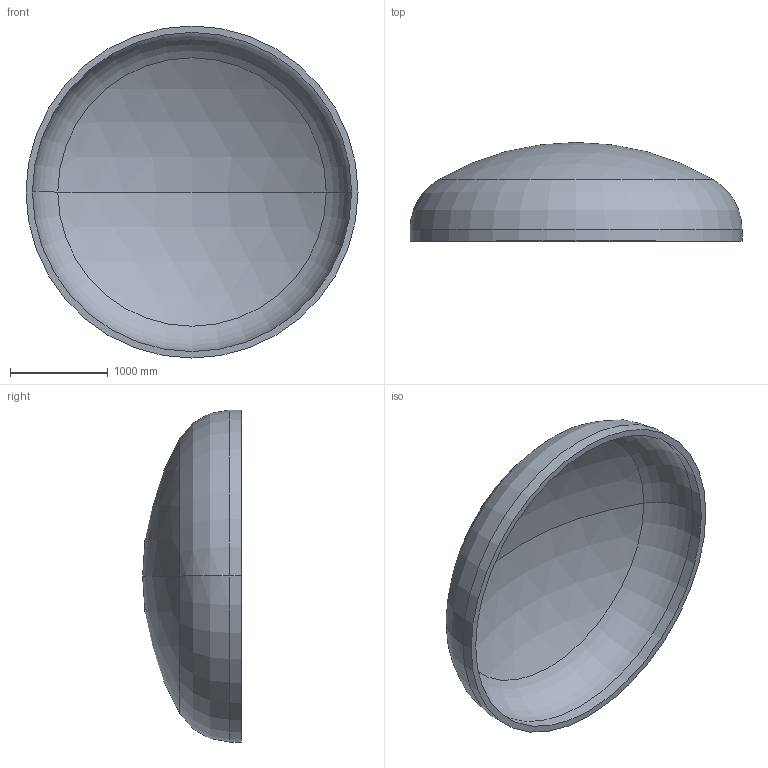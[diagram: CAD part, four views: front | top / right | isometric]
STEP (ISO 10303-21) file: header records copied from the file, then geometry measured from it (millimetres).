
FILE_DESCRIPTION (( 'STEP AP203' ), '1' );
FILE_NAME ('DIN 28013 Korbbogenform_-_Boden DIN 28013 - 3400 x 120 - I - s=66.step', '2016-07-01T19:41:14', ( '' ), ( '' ), 'SwSTEP 2.0', 'SolidWorks 2013', '' );
FILE_SCHEMA (( 'CONFIG_CONTROL_DESIGN' ));
Length unit declared in the file: millimetre
Products named in the file (1): DIN 28013 Korbbogenform_-_Boden DIN 28013 - 3400 x 120 - I - s=66
Bounding box: 3400 x 1011.76 x 3400 mm (x, y, z)
Volume: 892356175.8 mm3; surface area: 27741498.7 mm2
Topology: 1 solids, 1 shells, 13 faces, 24 edges, 14 vertices
Faces by surface type: torus 4, cylinder 4, sphere 4, plane 1
Entity records: 407 total; most frequent: DIRECTION 72, CARTESIAN_POINT 52, ORIENTED_EDGE 48, AXIS2_PLACEMENT_3D 34, EDGE_CURVE 24, CIRCLE 20, VERTEX_POINT 14, EDGE_LOOP 14
